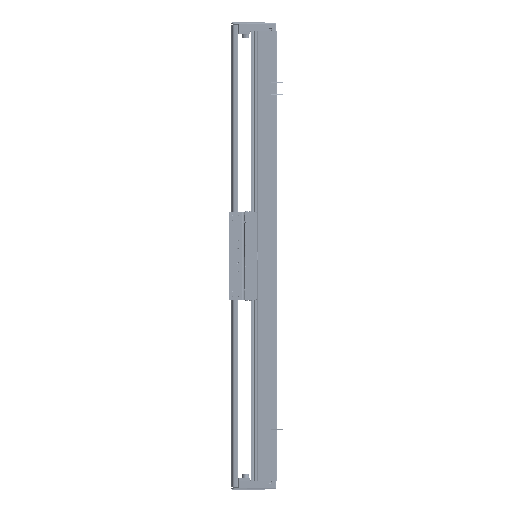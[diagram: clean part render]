
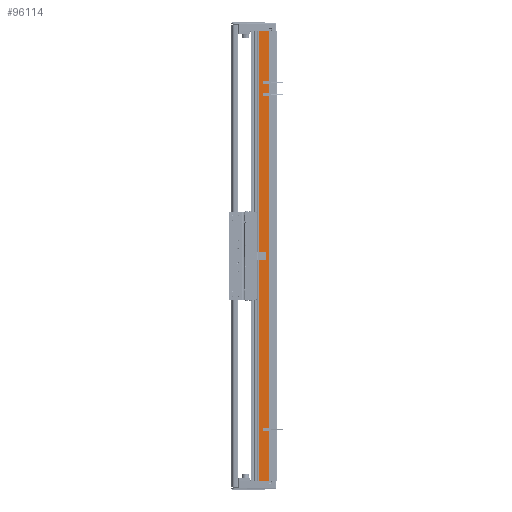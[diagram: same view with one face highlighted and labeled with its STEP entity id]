
A CAD part, left-side view. The second image highlights one B-rep face of the part: STEP entity #96114.
In plain terms, the highlighted planar face has unit normal (-1, 0, 0).
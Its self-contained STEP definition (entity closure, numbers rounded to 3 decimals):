
#813 = VERTEX_POINT ( 'NONE', #139299 ) ;
#4485 = ORIENTED_EDGE ( 'NONE', *, *, #126601, .F. ) ;
#5394 = LINE ( 'NONE', #115217, #113749 ) ;
#17013 = DIRECTION ( 'NONE',  ( 0., 0., -1. ) ) ;
#18097 = CARTESIAN_POINT ( 'NONE',  ( -97.5, 36.95, 480. ) ) ;
#19422 = EDGE_CURVE ( 'NONE', #98278, #813, #27872, .T. ) ;
#19730 = ORIENTED_EDGE ( 'NONE', *, *, #55521, .T. ) ;
#22223 = CARTESIAN_POINT ( 'NONE',  ( -97.5, 14.45, 480. ) ) ;
#26885 = DIRECTION ( 'NONE',  ( 1., 0., 0. ) ) ;
#27872 = LINE ( 'NONE', #50663, #119628 ) ;
#37560 = FACE_OUTER_BOUND ( 'NONE', #71785, .T. ) ;
#43682 = ORIENTED_EDGE ( 'NONE', *, *, #44646, .F. ) ;
#44646 = EDGE_CURVE ( 'NONE', #50434, #135649, #71218, .T. ) ;
#48881 = DIRECTION ( 'NONE',  ( 0., -1., 0. ) ) ;
#50434 = VERTEX_POINT ( 'NONE', #22223 ) ;
#50663 = CARTESIAN_POINT ( 'NONE',  ( -97.5, 36.95, 480. ) ) ;
#54746 = LINE ( 'NONE', #84736, #90120 ) ;
#55521 = EDGE_CURVE ( 'NONE', #813, #135649, #54746, .T. ) ;
#59241 = AXIS2_PLACEMENT_3D ( 'NONE', #81069, #26885, #81796 ) ;
#65453 = DIRECTION ( 'NONE',  ( 0., -1., 0. ) ) ;
#71023 = CARTESIAN_POINT ( 'NONE',  ( -97.5, 14.45, -480. ) ) ;
#71218 = LINE ( 'NONE', #114749, #104721 ) ;
#71785 = EDGE_LOOP ( 'NONE', ( #19730, #43682, #4485, #100502 ) ) ;
#81069 = CARTESIAN_POINT ( 'NONE',  ( -97.5, 36.95, 480. ) ) ;
#81796 = DIRECTION ( 'NONE',  ( 0., 1., 0. ) ) ;
#84736 = CARTESIAN_POINT ( 'NONE',  ( -97.5, 36.95, -480. ) ) ;
#90120 = VECTOR ( 'NONE', #65453, 1000. ) ;
#92116 = DIRECTION ( 'NONE',  ( 0., 0., -1. ) ) ;
#96114 = ADVANCED_FACE ( 'NONE', ( #37560 ), #125996, .F. ) ;
#98278 = VERTEX_POINT ( 'NONE', #18097 ) ;
#100502 = ORIENTED_EDGE ( 'NONE', *, *, #19422, .T. ) ;
#104721 = VECTOR ( 'NONE', #17013, 1000. ) ;
#113749 = VECTOR ( 'NONE', #48881, 1000. ) ;
#114749 = CARTESIAN_POINT ( 'NONE',  ( -97.5, 14.45, 480. ) ) ;
#115217 = CARTESIAN_POINT ( 'NONE',  ( -97.5, 36.95, 480. ) ) ;
#119628 = VECTOR ( 'NONE', #92116, 1000. ) ;
#125996 = PLANE ( 'NONE',  #59241 ) ;
#126601 = EDGE_CURVE ( 'NONE', #98278, #50434, #5394, .T. ) ;
#135649 = VERTEX_POINT ( 'NONE', #71023 ) ;
#139299 = CARTESIAN_POINT ( 'NONE',  ( -97.5, 36.95, -480. ) ) ;
